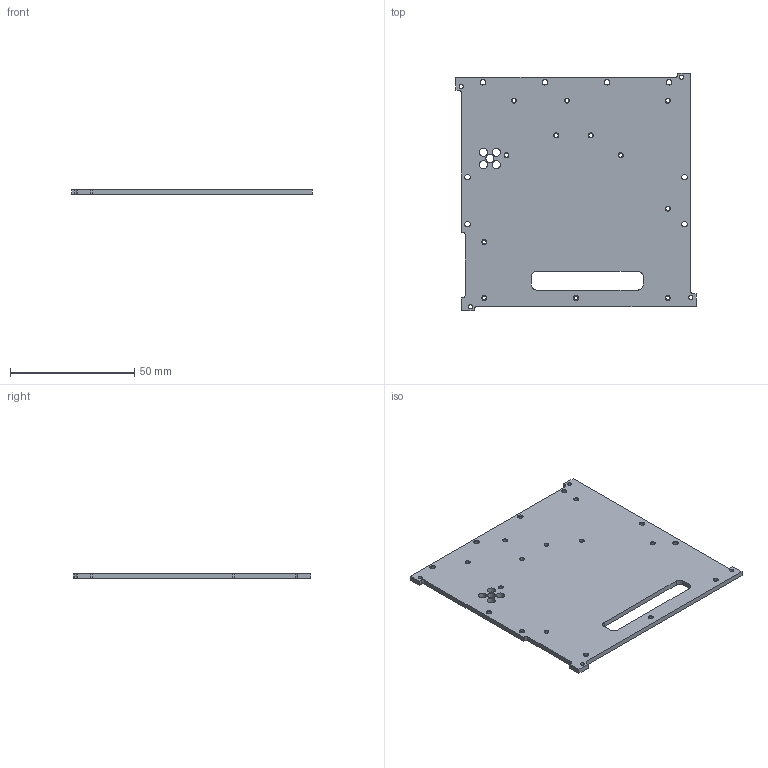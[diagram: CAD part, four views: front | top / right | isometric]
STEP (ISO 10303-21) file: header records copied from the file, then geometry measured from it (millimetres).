
FILE_DESCRIPTION((''),'2;1');
FILE_NAME('BATTERY_BOX_LID_2012_6_1','2020-03-13T',('g0715'),(''),'PRO/ENGINEER BY PARAMETRIC TECHNOLOGY CORPORATION, 2014090','PRO/ENGINEER BY PARAMETRIC TECHNOLOGY CORPORATION, 2014090','');
FILE_SCHEMA(('CONFIG_CONTROL_DESIGN'));
Length unit declared in the file: millimetre
Products named in the file (1): BATTERY_BOX_LID_2012_6_1
Bounding box: 96.8 x 95.8 x 2 mm (x, y, z)
Volume: 16127.4 mm3; surface area: 17750.9 mm2
Topology: 1 solids, 13 shells, 138 faces, 384 edges, 256 vertices
Faces by surface type: cylinder 108, plane 30
Entity records: 4675 total; most frequent: DIRECTION 878, CARTESIAN_POINT 779, ORIENTED_EDGE 720, EDGE_CURVE 384, AXIS2_PLACEMENT_3D 355, VERTEX_POINT 256, CIRCLE 216, EDGE_LOOP 206
